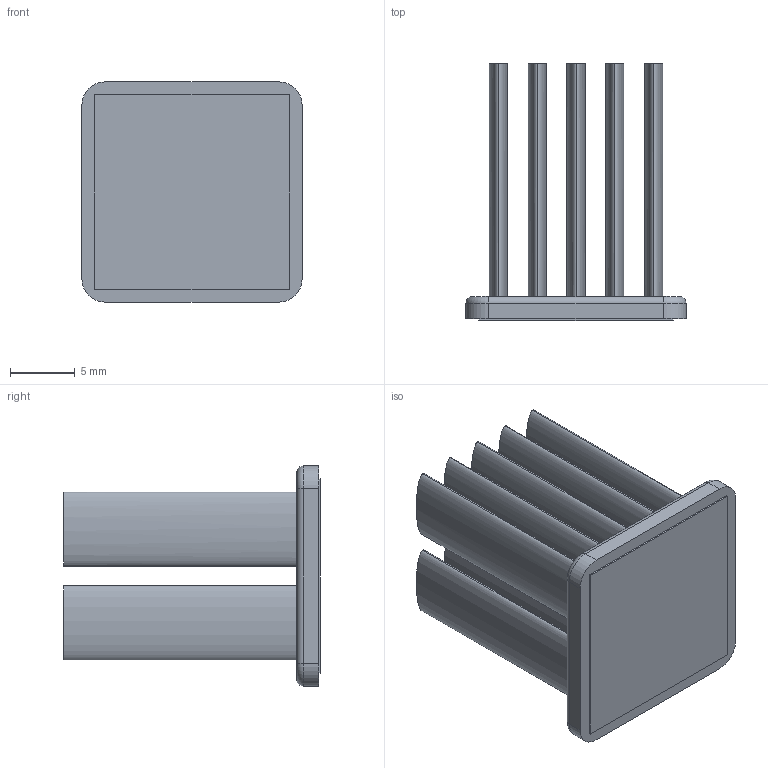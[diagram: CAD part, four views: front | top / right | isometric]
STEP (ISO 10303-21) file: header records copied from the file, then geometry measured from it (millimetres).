
FILE_DESCRIPTION (( 'STEP AP214' ), '1' );
FILE_NAME ('INM17001-20W-1.7.STEP', '2023-03-01T23:06:15', ( '' ), ( '' ), 'SwSTEP 2.0', 'SolidWorks 2020', '' );
FILE_SCHEMA (( 'AUTOMOTIVE_DESIGN' ));
Length unit declared in the file: millimetre
Products named in the file (1): INM17001-20W-1.7
Bounding box: 17 x 19.83 x 17 mm (x, y, z)
Volume: 1639.9 mm3; surface area: 3322.5 mm2
Topology: 2 solids, 2 shells, 54 faces, 112 edges, 72 vertices
Faces by surface type: plane 22, bspline 20, cylinder 8, torus 4
Entity records: 2109 total; most frequent: CARTESIAN_POINT 499, ORIENTED_EDGE 224, DIRECTION 162, EDGE_CURVE 112, VERTEX_POINT 72, EDGE_LOOP 64, UNCERTAINTY_MEASURE_WITH_UNIT 58, STYLED_ITEM 57
